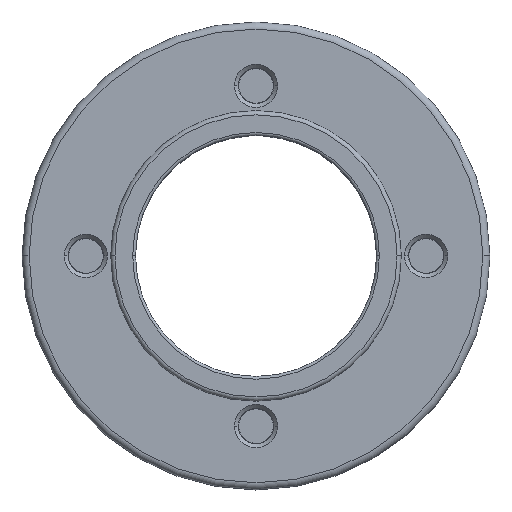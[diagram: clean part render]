
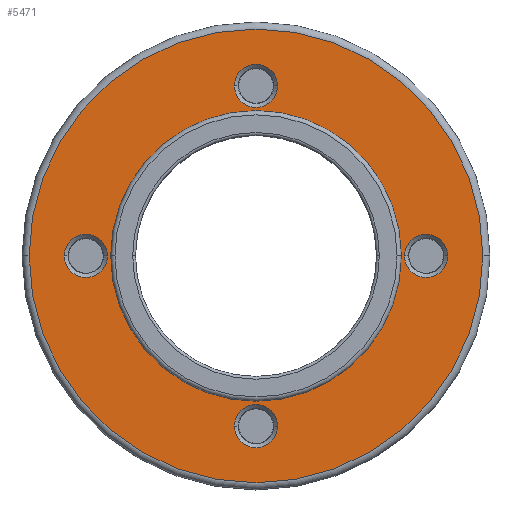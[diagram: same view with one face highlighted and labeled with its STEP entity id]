
A CAD part, top view. The second image highlights one B-rep face of the part: STEP entity #5471.
In plain terms, the highlighted planar face has unit normal (0, 0, 1).
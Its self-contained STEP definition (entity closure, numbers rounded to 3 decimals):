
#140 = VERTEX_POINT ( 'NONE', #392 ) ;
#148 = VERTEX_POINT ( 'NONE', #411 ) ;
#154 = VERTEX_POINT ( 'NONE', #422 ) ;
#200 = VERTEX_POINT ( 'NONE', #6291 ) ;
#276 = VERTEX_POINT ( 'NONE', #6590 ) ;
#294 = VERTEX_POINT ( 'NONE', #6635 ) ;
#307 = VERTEX_POINT ( 'NONE', #6634 ) ;
#308 = VERTEX_POINT ( 'NONE', #6648 ) ;
#310 = VERTEX_POINT ( 'NONE', #6640 ) ;
#326 = VERTEX_POINT ( 'NONE', #892 ) ;
#336 = VERTEX_POINT ( 'NONE', #903 ) ;
#338 = VERTEX_POINT ( 'NONE', #907 ) ;
#392 = CARTESIAN_POINT ( 'NONE',  ( 13.525, 0., 19.8 ) ) ;
#411 = CARTESIAN_POINT ( 'NONE',  ( 1.525, -12., 19.8 ) ) ;
#422 = CARTESIAN_POINT ( 'NONE',  ( -1.525, -12., 19.8 ) ) ;
#506 = AXIS2_PLACEMENT_3D ( 'NONE', #6261, #6262, #6263 ) ;
#510 = AXIS2_PLACEMENT_3D ( 'NONE', #2718, #2719, #2720 ) ;
#528 = AXIS2_PLACEMENT_3D ( 'NONE', #1071, #1072, #1073 ) ;
#579 = AXIS2_PLACEMENT_3D ( 'NONE', #2668, #2669, #2670 ) ;
#739 = CARTESIAN_POINT ( 'NONE',  ( 0., 0., 19.8 ) ) ;
#740 = DIRECTION ( 'NONE',  ( 0., 0., 1. ) ) ;
#741 = DIRECTION ( 'NONE',  ( 1., 0., 0. ) ) ;
#743 = CARTESIAN_POINT ( 'NONE',  ( -12., 0., 19.8 ) ) ;
#744 = DIRECTION ( 'NONE',  ( 0., 0., 1. ) ) ;
#745 = DIRECTION ( 'NONE',  ( 1., 0., 0. ) ) ;
#811 = EDGE_CURVE ( 'NONE', #276, #200, #1310, .T. ) ;
#812 = EDGE_CURVE ( 'NONE', #308, #310, #1321, .T. ) ;
#826 = EDGE_CURVE ( 'NONE', #336, #140, #1334, .T. ) ;
#836 = EDGE_CURVE ( 'NONE', #154, #148, #1345, .T. ) ;
#892 = CARTESIAN_POINT ( 'NONE',  ( 16., 0., 19.8 ) ) ;
#903 = CARTESIAN_POINT ( 'NONE',  ( 10.475, 0., 19.8 ) ) ;
#907 = CARTESIAN_POINT ( 'NONE',  ( -16., 0., 19.8 ) ) ;
#1071 = CARTESIAN_POINT ( 'NONE',  ( 0., 0., 19.8 ) ) ;
#1072 = DIRECTION ( 'NONE',  ( 0., 0., 1. ) ) ;
#1073 = DIRECTION ( 'NONE',  ( 1., 0., 0. ) ) ;
#1310 = CIRCLE ( 'NONE', #3005, 10.25 ) ;
#1321 = CIRCLE ( 'NONE', #3006, 1.525 ) ;
#1334 = CIRCLE ( 'NONE', #506, 1.525 ) ;
#1345 = CIRCLE ( 'NONE', #510, 1.525 ) ;
#1400 = CIRCLE ( 'NONE', #528, 10.25 ) ;
#1520 = CIRCLE ( 'NONE', #579, 1.525 ) ;
#2297 = CARTESIAN_POINT ( 'NONE',  ( 0., 0., 19.8 ) ) ;
#2298 = DIRECTION ( 'NONE',  ( 0., 0., 1. ) ) ;
#2299 = DIRECTION ( 'NONE',  ( 1., 0., 0. ) ) ;
#2523 = CARTESIAN_POINT ( 'NONE',  ( 12., 0., 19.8 ) ) ;
#2524 = DIRECTION ( 'NONE',  ( 0., 0., 1. ) ) ;
#2525 = DIRECTION ( 'NONE',  ( 1., 0., 0. ) ) ;
#2527 = CARTESIAN_POINT ( 'NONE',  ( 0., 12., 19.8 ) ) ;
#2528 = DIRECTION ( 'NONE',  ( 0., 0., 1. ) ) ;
#2529 = DIRECTION ( 'NONE',  ( 1., 0., 0. ) ) ;
#2601 = CARTESIAN_POINT ( 'NONE',  ( 0., 0., 19.8 ) ) ;
#2602 = DIRECTION ( 'NONE',  ( 0., 0., 1. ) ) ;
#2603 = DIRECTION ( 'NONE',  ( 1., 0., 0. ) ) ;
#2668 = CARTESIAN_POINT ( 'NONE',  ( 0., 12., 19.8 ) ) ;
#2669 = DIRECTION ( 'NONE',  ( 0., 0., 1. ) ) ;
#2670 = DIRECTION ( 'NONE',  ( 1., 0., 0. ) ) ;
#2718 = CARTESIAN_POINT ( 'NONE',  ( 0., -12., 19.8 ) ) ;
#2719 = DIRECTION ( 'NONE',  ( 0., 0., 1. ) ) ;
#2720 = DIRECTION ( 'NONE',  ( 1., 0., 0. ) ) ;
#2857 = EDGE_CURVE ( 'NONE', #200, #276, #1400, .T. ) ;
#2953 = EDGE_CURVE ( 'NONE', #307, #294, #1520, .T. ) ;
#3005 = AXIS2_PLACEMENT_3D ( 'NONE', #739, #740, #741 ) ;
#3006 = AXIS2_PLACEMENT_3D ( 'NONE', #743, #744, #745 ) ;
#3351 = EDGE_LOOP ( 'NONE', ( #6839, #6842 ) ) ;
#3352 = EDGE_LOOP ( 'NONE', ( #6837, #6840 ) ) ;
#3353 = EDGE_LOOP ( 'NONE', ( #6832, #6831 ) ) ;
#3355 = EDGE_LOOP ( 'NONE', ( #6836, #6838 ) ) ;
#3357 = EDGE_LOOP ( 'NONE', ( #6834, #6835 ) ) ;
#3364 = EDGE_LOOP ( 'NONE', ( #6833, #6844 ) ) ;
#3547 = CIRCLE ( 'NONE', #6487, 1.525 ) ;
#3581 = CIRCLE ( 'NONE', #6493, 1.525 ) ;
#3583 = CIRCLE ( 'NONE', #6494, 1.525 ) ;
#3619 = CIRCLE ( 'NONE', #6509, 16. ) ;
#3679 = CIRCLE ( 'NONE', #6523, 1.525 ) ;
#4002 = FACE_BOUND ( 'NONE', #3352, .T. ) ;
#4004 = FACE_BOUND ( 'NONE', #3364, .T. ) ;
#4005 = FACE_BOUND ( 'NONE', #3355, .T. ) ;
#4006 = FACE_BOUND ( 'NONE', #3353, .T. ) ;
#4007 = FACE_BOUND ( 'NONE', #3357, .T. ) ;
#4008 = FACE_OUTER_BOUND ( 'NONE', #3351, .T. ) ;
#4165 = CIRCLE ( 'NONE', #6066, 16. ) ;
#4479 = CARTESIAN_POINT ( 'NONE',  ( 0., -12., 19.8 ) ) ;
#4480 = DIRECTION ( 'NONE',  ( 0., 0., 1. ) ) ;
#4481 = DIRECTION ( 'NONE',  ( 1., 0., 0. ) ) ;
#5023 = EDGE_CURVE ( 'NONE', #148, #154, #3547, .T. ) ;
#5045 = EDGE_CURVE ( 'NONE', #140, #336, #3581, .T. ) ;
#5046 = EDGE_CURVE ( 'NONE', #294, #307, #3583, .T. ) ;
#5073 = EDGE_CURVE ( 'NONE', #338, #326, #3619, .T. ) ;
#5118 = EDGE_CURVE ( 'NONE', #310, #308, #3679, .T. ) ;
#5299 = DIRECTION ( 'NONE',  ( 0., 0., -1. ) ) ;
#5303 = PLANE ( 'NONE',  #5611 ) ;
#5306 = CARTESIAN_POINT ( 'NONE',  ( 0., 16., 19.8 ) ) ;
#5308 = DIRECTION ( 'NONE',  ( -1., 0., 0. ) ) ;
#5471 = ADVANCED_FACE ( 'NONE', ( #4006, #4004, #4007, #4005, #4002, #4008 ), #5303, .F. ) ;
#5611 = AXIS2_PLACEMENT_3D ( 'NONE', #5306, #5299, #5308 ) ;
#5903 = CARTESIAN_POINT ( 'NONE',  ( -12., 0., 19.8 ) ) ;
#5904 = DIRECTION ( 'NONE',  ( 0., 0., 1. ) ) ;
#5905 = DIRECTION ( 'NONE',  ( 1., 0., 0. ) ) ;
#6066 = AXIS2_PLACEMENT_3D ( 'NONE', #2297, #2298, #2299 ) ;
#6261 = CARTESIAN_POINT ( 'NONE',  ( 12., 0., 19.8 ) ) ;
#6262 = DIRECTION ( 'NONE',  ( 0., 0., 1. ) ) ;
#6263 = DIRECTION ( 'NONE',  ( 1., 0., 0. ) ) ;
#6291 = CARTESIAN_POINT ( 'NONE',  ( -10.25, 0., 19.8 ) ) ;
#6487 = AXIS2_PLACEMENT_3D ( 'NONE', #4479, #4480, #4481 ) ;
#6493 = AXIS2_PLACEMENT_3D ( 'NONE', #2523, #2524, #2525 ) ;
#6494 = AXIS2_PLACEMENT_3D ( 'NONE', #2527, #2528, #2529 ) ;
#6509 = AXIS2_PLACEMENT_3D ( 'NONE', #2601, #2602, #2603 ) ;
#6523 = AXIS2_PLACEMENT_3D ( 'NONE', #5903, #5904, #5905 ) ;
#6590 = CARTESIAN_POINT ( 'NONE',  ( 10.25, 0., 19.8 ) ) ;
#6616 = EDGE_CURVE ( 'NONE', #326, #338, #4165, .T. ) ;
#6634 = CARTESIAN_POINT ( 'NONE',  ( -1.525, 12., 19.8 ) ) ;
#6635 = CARTESIAN_POINT ( 'NONE',  ( 1.525, 12., 19.8 ) ) ;
#6640 = CARTESIAN_POINT ( 'NONE',  ( -10.475, 0., 19.8 ) ) ;
#6648 = CARTESIAN_POINT ( 'NONE',  ( -13.525, 0., 19.8 ) ) ;
#6831 = ORIENTED_EDGE ( 'NONE', *, *, #826, .F. ) ;
#6832 = ORIENTED_EDGE ( 'NONE', *, *, #5045, .F. ) ;
#6833 = ORIENTED_EDGE ( 'NONE', *, *, #5023, .F. ) ;
#6834 = ORIENTED_EDGE ( 'NONE', *, *, #5118, .F. ) ;
#6835 = ORIENTED_EDGE ( 'NONE', *, *, #812, .F. ) ;
#6836 = ORIENTED_EDGE ( 'NONE', *, *, #5046, .F. ) ;
#6837 = ORIENTED_EDGE ( 'NONE', *, *, #811, .F. ) ;
#6838 = ORIENTED_EDGE ( 'NONE', *, *, #2953, .F. ) ;
#6839 = ORIENTED_EDGE ( 'NONE', *, *, #6616, .T. ) ;
#6840 = ORIENTED_EDGE ( 'NONE', *, *, #2857, .F. ) ;
#6842 = ORIENTED_EDGE ( 'NONE', *, *, #5073, .T. ) ;
#6844 = ORIENTED_EDGE ( 'NONE', *, *, #836, .F. ) ;
